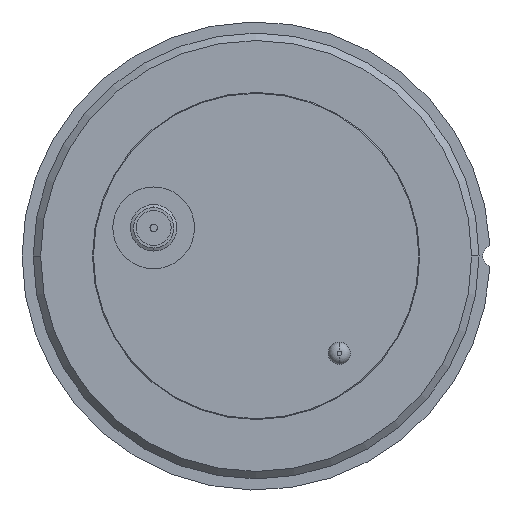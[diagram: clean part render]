
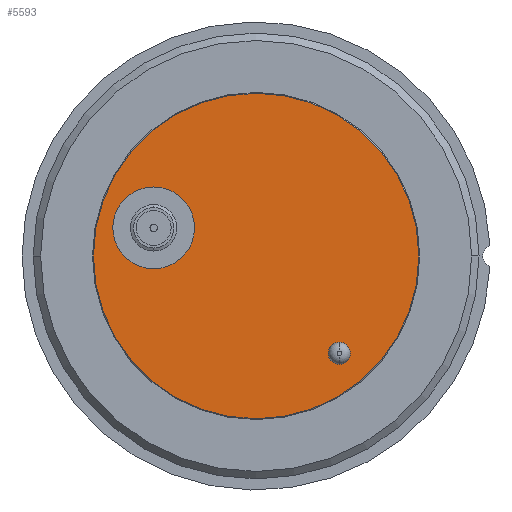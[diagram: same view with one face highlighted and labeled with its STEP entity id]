
A CAD part, front view. The second image highlights one B-rep face of the part: STEP entity #5593.
In plain terms, the highlighted planar face has unit normal (0, -1, 0).
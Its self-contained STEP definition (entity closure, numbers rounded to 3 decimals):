
#780 = CIRCLE ( 'NONE', #783, 1.5 ) ;
#783 = AXIS2_PLACEMENT_3D ( 'NONE', #3351, #3352, #3353 ) ;
#788 = CIRCLE ( 'NONE', #795, 5.5 ) ;
#795 = AXIS2_PLACEMENT_3D ( 'NONE', #3363, #3364, #3365 ) ;
#929 = CIRCLE ( 'NONE', #933, 21.9 ) ;
#933 = AXIS2_PLACEMENT_3D ( 'NONE', #3533, #3534, #3535 ) ;
#1151 = CIRCLE ( 'NONE', #1156, 21.9 ) ;
#1154 = CIRCLE ( 'NONE', #1158, 1.5 ) ;
#1156 = AXIS2_PLACEMENT_3D ( 'NONE', #3782, #3783, #3784 ) ;
#1157 = CIRCLE ( 'NONE', #1160, 5.5 ) ;
#1158 = AXIS2_PLACEMENT_3D ( 'NONE', #3785, #3786, #3787 ) ;
#1160 = AXIS2_PLACEMENT_3D ( 'NONE', #3789, #3790, #3791 ) ;
#3351 = CARTESIAN_POINT ( 'NONE',  ( 11.2, 0., -13.1 ) ) ;
#3352 = DIRECTION ( 'NONE',  ( 0., -1., 0. ) ) ;
#3353 = DIRECTION ( 'NONE',  ( 1., 0., 0. ) ) ;
#3363 = CARTESIAN_POINT ( 'NONE',  ( -13.789, 0., 3.789 ) ) ;
#3364 = DIRECTION ( 'NONE',  ( 0., -1., 0. ) ) ;
#3365 = DIRECTION ( 'NONE',  ( 0., 0., 1. ) ) ;
#3533 = CARTESIAN_POINT ( 'NONE',  ( 0., 0., 0. ) ) ;
#3534 = DIRECTION ( 'NONE',  ( 0., 1., 0. ) ) ;
#3535 = DIRECTION ( 'NONE',  ( -1., 0., 0. ) ) ;
#3782 = CARTESIAN_POINT ( 'NONE',  ( 0., 0., 0. ) ) ;
#3783 = DIRECTION ( 'NONE',  ( 0., 1., 0. ) ) ;
#3784 = DIRECTION ( 'NONE',  ( -1., 0., 0. ) ) ;
#3785 = CARTESIAN_POINT ( 'NONE',  ( 11.2, 0., -13.1 ) ) ;
#3786 = DIRECTION ( 'NONE',  ( 0., -1., 0. ) ) ;
#3787 = DIRECTION ( 'NONE',  ( 1., 0., 0. ) ) ;
#3789 = CARTESIAN_POINT ( 'NONE',  ( -13.789, 0., 3.789 ) ) ;
#3790 = DIRECTION ( 'NONE',  ( 0., -1., 0. ) ) ;
#3791 = DIRECTION ( 'NONE',  ( 0., 0., 1. ) ) ;
#5593 = ADVANCED_FACE ( 'NONE', ( #17032, #17035, #17039 ), #17042, .T. ) ;
#14754 = ORIENTED_EDGE ( 'NONE', *, *, #60181, .F. ) ;
#14755 = ORIENTED_EDGE ( 'NONE', *, *, #59928, .F. ) ;
#14756 = ORIENTED_EDGE ( 'NONE', *, *, #60183, .F. ) ;
#14757 = ORIENTED_EDGE ( 'NONE', *, *, #59936, .F. ) ;
#14758 = ORIENTED_EDGE ( 'NONE', *, *, #60033, .F. ) ;
#14759 = ORIENTED_EDGE ( 'NONE', *, *, #60179, .F. ) ;
#17010 = AXIS2_PLACEMENT_3D ( 'NONE', #17033, #17028, #17043 ) ;
#17028 = DIRECTION ( 'NONE',  ( 0., -1., 0. ) ) ;
#17032 = FACE_BOUND ( 'NONE', #32471, .T. ) ;
#17033 = CARTESIAN_POINT ( 'NONE',  ( -15.75, 0., 0. ) ) ;
#17035 = FACE_BOUND ( 'NONE', #32526, .T. ) ;
#17039 = FACE_OUTER_BOUND ( 'NONE', #32531, .T. ) ;
#17042 = PLANE ( 'NONE',  #17010 ) ;
#17043 = DIRECTION ( 'NONE',  ( 1., 0., 0. ) ) ;
#25625 = CARTESIAN_POINT ( 'NONE',  ( 11.2, 0., -14.6 ) ) ;
#25627 = CARTESIAN_POINT ( 'NONE',  ( 11.2, 0., -11.6 ) ) ;
#25630 = CARTESIAN_POINT ( 'NONE',  ( -13.789, 0., 9.289 ) ) ;
#25631 = CARTESIAN_POINT ( 'NONE',  ( -13.789, 0., -1.711 ) ) ;
#25674 = CARTESIAN_POINT ( 'NONE',  ( -21.9, 0., 0. ) ) ;
#25678 = CARTESIAN_POINT ( 'NONE',  ( 21.9, 0., 0. ) ) ;
#32471 = EDGE_LOOP ( 'NONE', ( #14754, #14755 ) ) ;
#32526 = EDGE_LOOP ( 'NONE', ( #14756, #14757 ) ) ;
#32531 = EDGE_LOOP ( 'NONE', ( #14758, #14759 ) ) ;
#59928 = EDGE_CURVE ( 'NONE', #66366, #66368, #780, .T. ) ;
#59936 = EDGE_CURVE ( 'NONE', #66371, #66372, #788, .T. ) ;
#60033 = EDGE_CURVE ( 'NONE', #66414, #66418, #929, .T. ) ;
#60179 = EDGE_CURVE ( 'NONE', #66418, #66414, #1151, .T. ) ;
#60181 = EDGE_CURVE ( 'NONE', #66368, #66366, #1154, .T. ) ;
#60183 = EDGE_CURVE ( 'NONE', #66372, #66371, #1157, .T. ) ;
#66366 = VERTEX_POINT ( 'NONE', #25625 ) ;
#66368 = VERTEX_POINT ( 'NONE', #25627 ) ;
#66371 = VERTEX_POINT ( 'NONE', #25630 ) ;
#66372 = VERTEX_POINT ( 'NONE', #25631 ) ;
#66414 = VERTEX_POINT ( 'NONE', #25674 ) ;
#66418 = VERTEX_POINT ( 'NONE', #25678 ) ;
